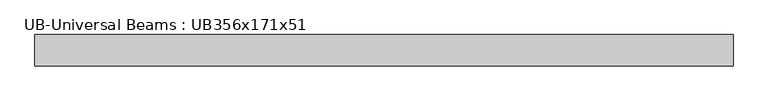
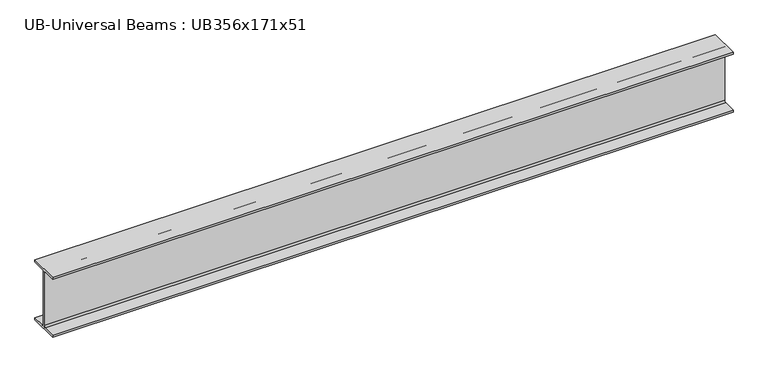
"""IFC4 building model written with IfcOpenShell, lengths in millimetres: beam geometry, UB-Universal Beams : UB356x171x51."""

from ifc_helpers import new_model, si_unit, point, frame, frame_2d, origin, place, context, project, spatial, polyline, circle_curve, trimmed, segment, composite_curve, outline, extrude, source, transform, mapped, element, save


def ub_universal_beams_ub356x171x51_741bae58(model_context):
    return source(origin(), model_context, "Body", "SweptSolid", [
        extrude(outline(composite_curve([segment(polyline([(85.75, -166.0), (85.75, -177.5), (-85.75, -177.5), (-85.75, -166.0), (-13.9, -166.0)]), True, "CONTINUOUS"), segment(trimmed(circle_curve(frame_2d((-13.9, -155.8)), 10.2), [point((-13.9, -166.0))], [point((-3.7, -155.8))], True, "CARTESIAN"), True, "CONTINUOUS"), segment(polyline([(-3.7, -155.8), (-3.7, 155.8)]), True, "CONTINUOUS"), segment(trimmed(circle_curve(frame_2d((-13.9, 155.8)), 10.2), [point((-3.7, 155.8))], [point((-13.9, 166.0))], True, "CARTESIAN"), True, "CONTINUOUS"), segment(polyline([(-13.9, 166.0), (-85.75, 166.0), (-85.75, 177.5), (85.75, 177.5), (85.75, 166.0), (13.9, 166.0)]), True, "CONTINUOUS"), segment(trimmed(circle_curve(frame_2d((13.9, 155.8)), 10.2), [point((13.9, 166.0))], [point((3.7, 155.8))], True, "CARTESIAN"), True, "CONTINUOUS"), segment(polyline([(3.7, 155.8), (3.7, -155.8)]), True, "CONTINUOUS"), segment(trimmed(circle_curve(frame_2d((13.9, -155.8)), 10.2), [point((3.7, -155.8))], [point((13.9, -166.0))], True, "CARTESIAN"), True, "CONTINUOUS"), segment(polyline([(13.9, -166.0), (85.75, -166.0)]), True, "CONTINUOUS")], self_intersect=False)), frame((-1877.8, 0.0, 0.0), z_axis=(1.0, 0.0, 0.0), x_axis=(0.0, 1.0, 0.0)), (0.0, 0.0, 1.0), 3823.8),
    ])


if __name__ == "__main__":
    model = new_model("IFC4")
    model_context = context("Model", 3, world=origin())
    ifc_project = project(units=[si_unit("LENGTHUNIT", "METRE", prefix="MILLI")], contexts=[model_context])
    site = spatial("IfcSite", under=ifc_project)
    building = spatial("IfcBuilding", under=site)
    placement = place(None, origin())
    ub_universal_beams_ub356x171x51_shape = ub_universal_beams_ub356x171x51_741bae58(model_context)
    element("IfcBeam", 1, ObjectType="UB-Universal Beams : UB356x171x51", at=placement, inside=building, context=model_context, shape_type="MappedRepresentation", body=[
        mapped(ub_universal_beams_ub356x171x51_shape, transform((0.0, 0.0, 0.0), x_axis=(1.0, 0.0, 0.0), y_axis=(0.0, 1.0, 0.0), z_axis=(0.0, 0.0, 1.0))),
    ])
    save(model, "model.ifc")
